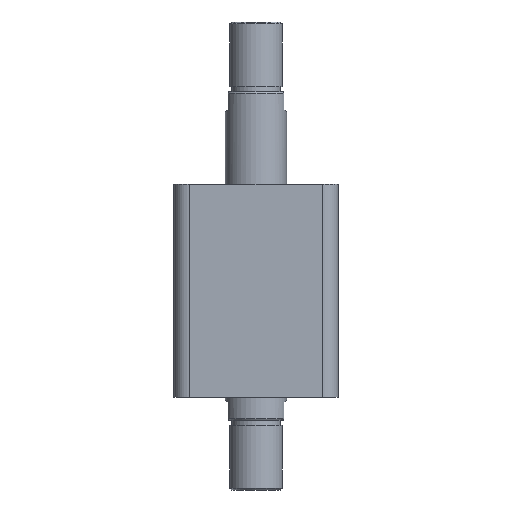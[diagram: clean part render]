
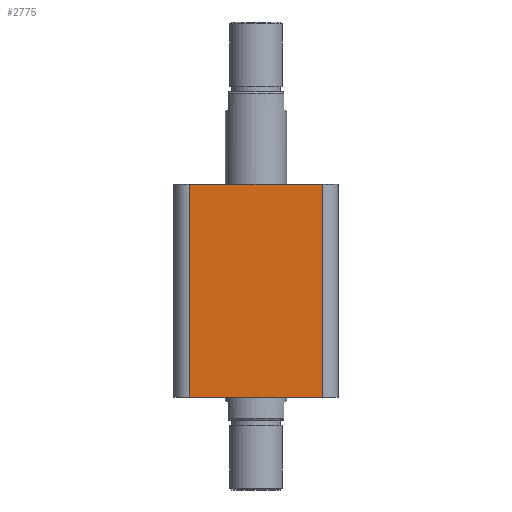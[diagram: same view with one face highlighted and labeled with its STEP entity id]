
A CAD part, front view. The second image highlights one B-rep face of the part: STEP entity #2775.
In plain terms, the highlighted planar face has unit normal (0, -1, 0).
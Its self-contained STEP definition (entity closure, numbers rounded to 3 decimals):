
#3 = VERTEX_POINT ( 'NONE', #810 ) ;
#18 = VERTEX_POINT ( 'NONE', #811 ) ;
#21 = VERTEX_POINT ( 'NONE', #809 ) ;
#94 = VERTEX_POINT ( 'NONE', #878 ) ;
#313 = FACE_OUTER_BOUND ( 'NONE', #3182, .T. ) ;
#368 = LINE ( 'NONE', #2258, #371 ) ;
#369 = LINE ( 'NONE', #2257, #373 ) ;
#371 = VECTOR ( 'NONE', #2262, 1000. ) ;
#373 = VECTOR ( 'NONE', #2263, 1000. ) ;
#406 = LINE ( 'NONE', #2308, #408 ) ;
#407 = LINE ( 'NONE', #2316, #410 ) ;
#408 = VECTOR ( 'NONE', #2309, 1000. ) ;
#410 = VECTOR ( 'NONE', #2317, 1000. ) ;
#809 = CARTESIAN_POINT ( 'NONE',  ( 38., -47., 122. ) ) ;
#810 = CARTESIAN_POINT ( 'NONE',  ( -38., -47., 122. ) ) ;
#811 = CARTESIAN_POINT ( 'NONE',  ( -38., -47., 0. ) ) ;
#878 = CARTESIAN_POINT ( 'NONE',  ( 38., -47., 0. ) ) ;
#1224 = CARTESIAN_POINT ( 'NONE',  ( -47., -47., 122. ) ) ;
#1226 = PLANE ( 'NONE',  #3123 ) ;
#1228 = DIRECTION ( 'NONE',  ( 0., 1., 0. ) ) ;
#1229 = DIRECTION ( 'NONE',  ( 0., 0., 1. ) ) ;
#2257 = CARTESIAN_POINT ( 'NONE',  ( -47., -47., 122. ) ) ;
#2258 = CARTESIAN_POINT ( 'NONE',  ( -38., -47., 122. ) ) ;
#2262 = DIRECTION ( 'NONE',  ( 0., 0., -1. ) ) ;
#2263 = DIRECTION ( 'NONE',  ( 1., 0., 0. ) ) ;
#2308 = CARTESIAN_POINT ( 'NONE',  ( 38., -47., 122. ) ) ;
#2309 = DIRECTION ( 'NONE',  ( 0., 0., 1. ) ) ;
#2316 = CARTESIAN_POINT ( 'NONE',  ( -47., -47., 0. ) ) ;
#2317 = DIRECTION ( 'NONE',  ( 1., 0., 0. ) ) ;
#2775 = ADVANCED_FACE ( 'NONE', ( #313 ), #1226, .F. ) ;
#2809 = EDGE_CURVE ( 'NONE', #3, #18, #368, .T. ) ;
#2810 = EDGE_CURVE ( 'NONE', #3, #21, #369, .T. ) ;
#2832 = EDGE_CURVE ( 'NONE', #94, #21, #406, .T. ) ;
#2833 = EDGE_CURVE ( 'NONE', #18, #94, #407, .T. ) ;
#3123 = AXIS2_PLACEMENT_3D ( 'NONE', #1224, #1228, #1229 ) ;
#3182 = EDGE_LOOP ( 'NONE', ( #3390, #3391, #3392, #3393 ) ) ;
#3390 = ORIENTED_EDGE ( 'NONE', *, *, #2810, .F. ) ;
#3391 = ORIENTED_EDGE ( 'NONE', *, *, #2809, .T. ) ;
#3392 = ORIENTED_EDGE ( 'NONE', *, *, #2833, .T. ) ;
#3393 = ORIENTED_EDGE ( 'NONE', *, *, #2832, .T. ) ;
